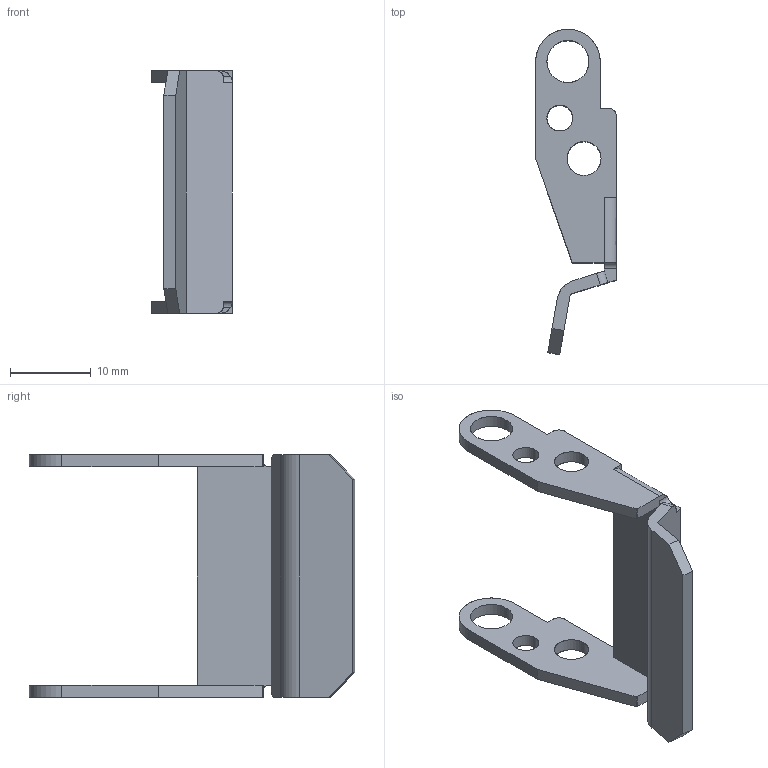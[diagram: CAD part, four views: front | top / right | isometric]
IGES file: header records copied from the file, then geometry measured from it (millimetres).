
Start section: SolidWorks IGES FILE using analytic representation for surfaces
Global section: file name: C:\WINNT\Profiles\cbrechard\Bureau\GE 2085\2085.010.00.IGS; native system: SolidWorks 2001Plus by SolidWorks Corporation; preprocessor: Version 5.3; author: CBRECHARD; date: 050124.093845; units: millimetre
Bounding box: 10 x 40.26 x 30 mm (x, y, z)
Surface area: 2514.6 mm2 (no closed solid volume)
Topology: 0 solids, 0 shells, 61 faces, 874 edges, 874 vertices
Faces by surface type: bspline 36, revolution 25
